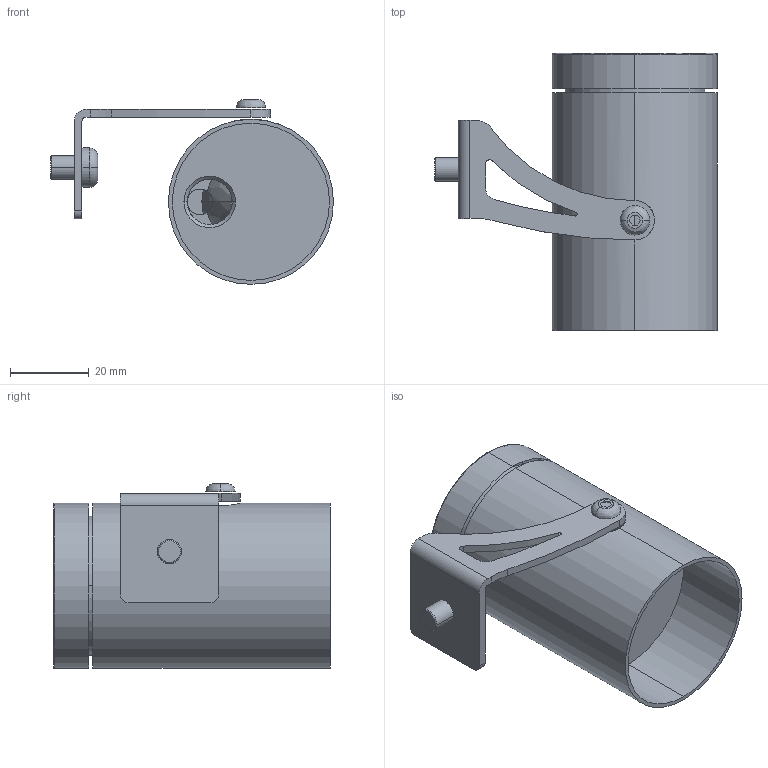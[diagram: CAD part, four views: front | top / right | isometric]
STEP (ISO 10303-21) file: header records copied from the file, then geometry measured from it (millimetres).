
FILE_DESCRIPTION((''),'2;1');
FILE_NAME('SWING_SW0001','2025-07-30T16:40:00',('Piccioli'),(''),'CREO PARAMETRIC BY PTC INC, 2025010','CREO PARAMETRIC BY PTC INC, 2025010','');
FILE_SCHEMA(('CONFIG_CONTROL_DESIGN'));
Length unit declared in the file: millimetre
Products named in the file (1): SWING_SW0001
Bounding box: 72 x 70.5 x 47 mm (x, y, z)
Surface area: 22261.5 mm2 (no closed solid volume)
Topology: 0 solids, 8 shells, 72 faces, 202 edges, 138 vertices
Faces by surface type: cylinder 31, plane 25, cone 6, torus 6, bspline 4
Entity records: 2548 total; most frequent: CARTESIAN_POINT 588, DIRECTION 443, ORIENTED_EDGE 349, EDGE_CURVE 200, AXIS2_PLACEMENT_3D 179, VERTEX_POINT 138, CIRCLE 111, EDGE_LOOP 87
